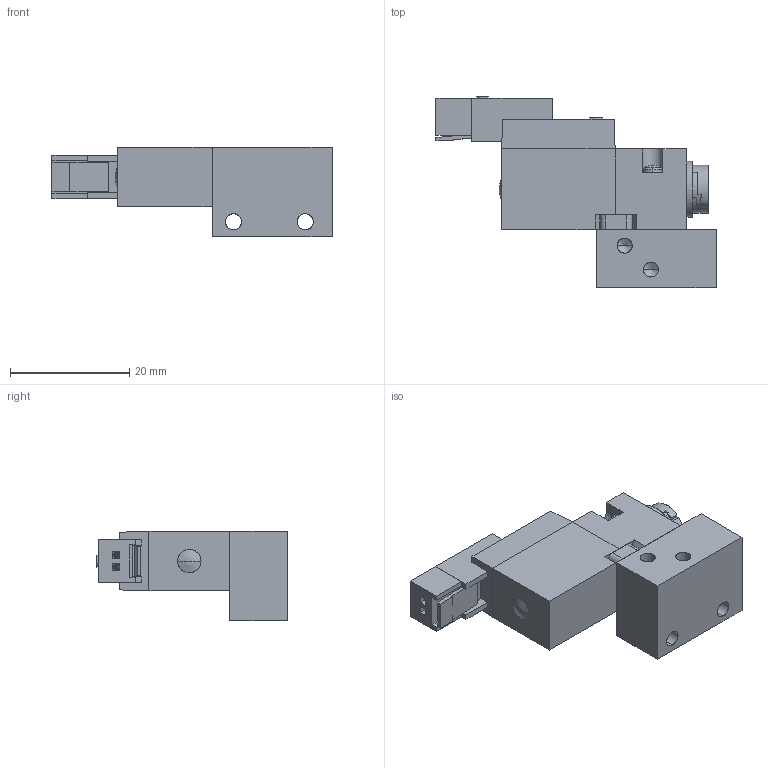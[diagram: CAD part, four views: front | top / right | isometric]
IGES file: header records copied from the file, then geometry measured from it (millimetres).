
Start section: SolidWorks IGES file using analytic representation for surfaces
Global section: file name: D:\Custom\3D繪製\ADEX\A00S\A00SO23-#Q.IGS,1; native system: 5HSolidWorks 2014; preprocessor: SolidWorks 2014; author: Chieh_Lu; date: 150726.231950; units: millimetre
Bounding box: 46.9 x 32 x 15 mm (x, y, z)
Surface area: 6152.4 mm2 (no closed solid volume)
Topology: 0 solids, 0 shells, 344 faces, 2902 edges, 2890 vertices
Faces by surface type: bspline 253, revolution 91
